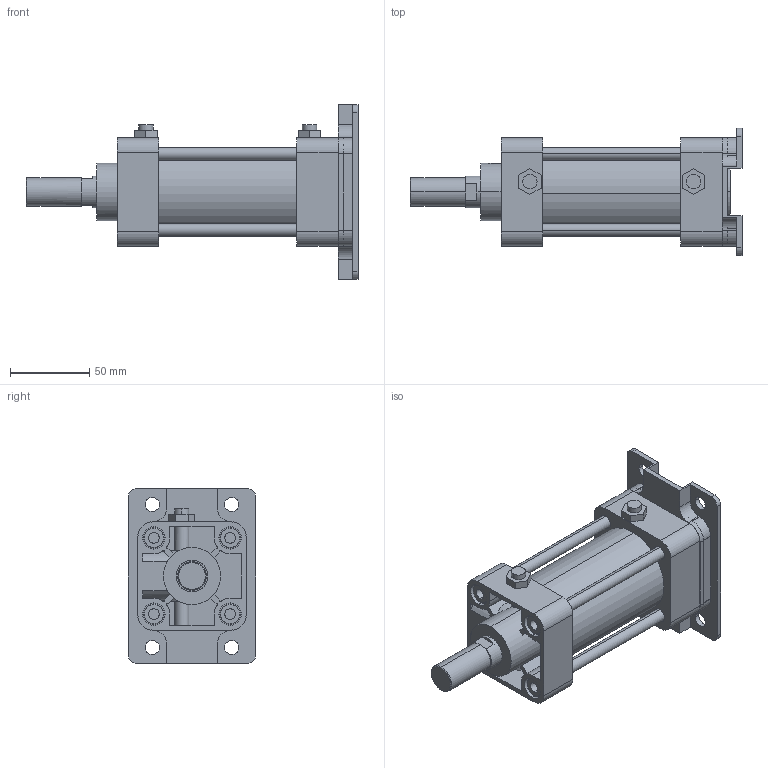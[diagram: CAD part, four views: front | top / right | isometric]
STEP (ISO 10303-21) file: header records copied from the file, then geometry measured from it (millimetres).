
FILE_DESCRIPTION (( 'STEP AP203' ), '1' );
FILE_NAME ('KG2-50-50-B.STEP', '2016-04-01T08:11:48', ( '' ), ( '' ), 'SwSTEP 2.0', 'SolidWorks 2014', '' );
FILE_SCHEMA (( 'CONFIG_CONTROL_DESIGN' ));
Length unit declared in the file: millimetre
Products named in the file (7): K-50-AB; KG2-50-50-B; KGLH2-50-50; KG2-50-After
Assembly tree (16 placements, depth 2):
  KG2-50-50-B
    KG2-50-After
    KGLH2-50-50
    (unnamed)
    (unnamed)  x4
    (unnamed)  x8
    K-50-AB
Bounding box: 209 x 80 x 110 mm (x, y, z)
Volume: 461181.9 mm3; surface area: 121026.7 mm2
Topology: 16 solids, 20 shells, 393 faces, 950 edges, 612 vertices
Faces by surface type: plane 171, cylinder 164, torus 32, cone 26
Entity records: 10415 total; most frequent: CARTESIAN_POINT 1886, DIRECTION 1642, ORIENTED_EDGE 1520, EDGE_CURVE 760, AXIS2_PLACEMENT_3D 602, VERTEX_POINT 502, VECTOR 438, LINE 438
